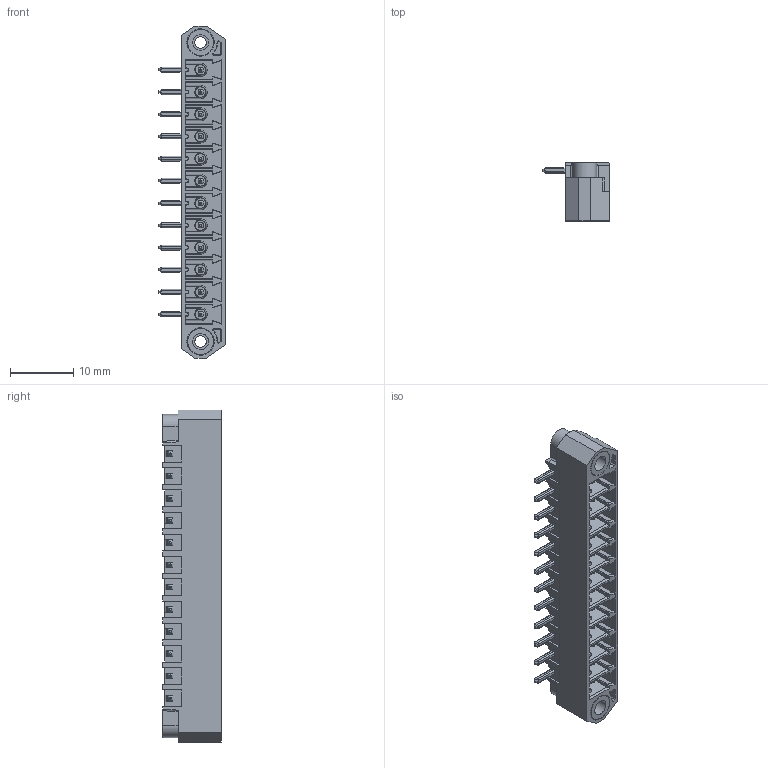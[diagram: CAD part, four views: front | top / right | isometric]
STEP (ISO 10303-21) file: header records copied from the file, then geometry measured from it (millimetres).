
FILE_DESCRIPTION (( 'STEP AP214' ), '1' );
FILE_NAME ('110-M-215-12.STEP', '2007-12-04T04:41:15', ( ' ' ), ( '' ), 'SwSTEP 2.0', 'SolidWorks 2007', '' );
FILE_SCHEMA (( 'AUTOMOTIVE_DESIGN' ));
Products named in the file (1): 110-M-215-12
Bounding box: 10.5 x 9.2 x 52.3 mm (x, y, z)
Volume: 1471.3 mm3; surface area: 4546 mm2
Topology: 1 solids, 1 shells, 2496 faces, 7226 edges, 4624 vertices
Faces by surface type: plane 1582, cylinder 692, bspline 116, cone 106
Entity records: 89559 total; most frequent: CARTESIAN_POINT 30168, ORIENTED_EDGE 14356, DIRECTION 9312, EDGE_CURVE 7178, VERTEX_POINT 4624, VECTOR 4078, LINE 4078, B_SPLINE_CURVE_WITH_KNOTS 2783
